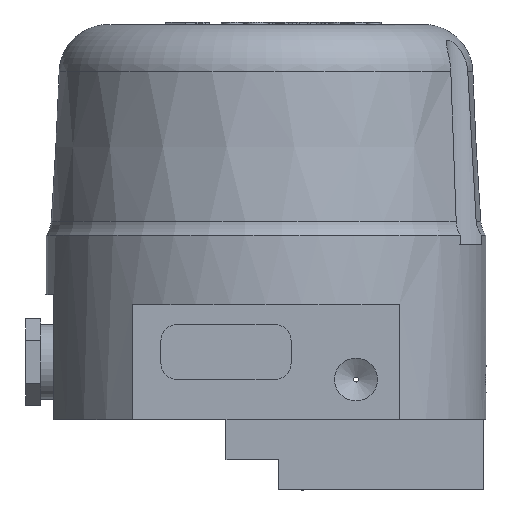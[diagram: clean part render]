
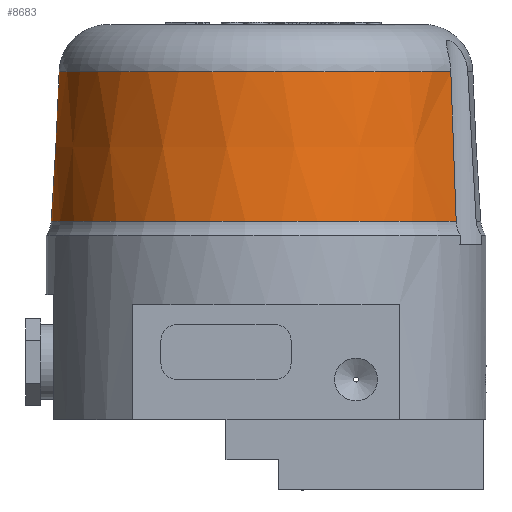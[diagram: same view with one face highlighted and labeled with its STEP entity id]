
A CAD part, left-side view. The second image highlights one B-rep face of the part: STEP entity #8683.
In plain terms, the highlighted conical face has half-angle 3 degrees and reference radius 41.434 mm.
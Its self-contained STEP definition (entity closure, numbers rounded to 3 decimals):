
#65=CONICAL_SURFACE('',#9194,41.434,0.052);
#124=B_SPLINE_CURVE_WITH_KNOTS('',3,(#15531,#15532,#15533,#15534,#15535,
#15536,#15537,#15538,#15539,#15540,#15541,#15542),.UNSPECIFIED.,.F.,.F.,
(4,2,2,2,2,4),(0.,0.25,0.375,0.5,0.75,1.),.UNSPECIFIED.);
#127=B_SPLINE_CURVE_WITH_KNOTS('',3,(#15583,#15584,#15585,#15586,#15587,
#15588,#15589,#15590,#15591,#15592),.UNSPECIFIED.,.F.,.F.,(4,2,2,2,4),(0.,
0.25,0.5,0.75,1.),.UNSPECIFIED.);
#349=CIRCLE('',#9192,41.434);
#351=CIRCLE('',#9195,43.);
#1124=ORIENTED_EDGE('',*,*,#2399,.F.);
#1125=ORIENTED_EDGE('',*,*,#2407,.F.);
#1126=ORIENTED_EDGE('',*,*,#2396,.F.);
#1127=ORIENTED_EDGE('',*,*,#2405,.T.);
#2396=EDGE_CURVE('',#3089,#3090,#124,.T.);
#2399=EDGE_CURVE('',#3091,#3092,#127,.T.);
#2405=EDGE_CURVE('',#3089,#3092,#349,.T.);
#2407=EDGE_CURVE('',#3090,#3091,#351,.T.);
#3089=VERTEX_POINT('',#15530);
#3090=VERTEX_POINT('',#15543);
#3091=VERTEX_POINT('',#15582);
#3092=VERTEX_POINT('',#15593);
#4761=EDGE_LOOP('',(#1124,#1125,#1126,#1127));
#5314=FACE_BOUND('',#4761,.T.);
#8683=ADVANCED_FACE('',(#5314),#65,.T.);
#9192=AXIS2_PLACEMENT_3D('',#15743,#10276,#10277);
#9194=AXIS2_PLACEMENT_3D('',#15746,#10280,#10281);
#9195=AXIS2_PLACEMENT_3D('',#15747,#10282,#10283);
#10276=DIRECTION('',(0.,0.,-1.));
#10277=DIRECTION('',(0.342,0.94,0.));
#10280=DIRECTION('',(0.,0.,-1.));
#10281=DIRECTION('',(0.342,0.94,0.));
#10282=DIRECTION('',(0.,0.,-1.));
#10283=DIRECTION('',(0.342,0.94,0.));
#15530=CARTESIAN_POINT('',(-18.731,-36.959,32.013));
#15531=CARTESIAN_POINT('',(-18.731,-36.959,32.013));
#15532=CARTESIAN_POINT('',(-18.862,-37.038,29.524));
#15533=CARTESIAN_POINT('',(-18.987,-37.121,27.034));
#15534=CARTESIAN_POINT('',(-19.167,-37.249,23.3));
#15535=CARTESIAN_POINT('',(-19.225,-37.292,22.055));
#15536=CARTESIAN_POINT('',(-19.34,-37.38,19.565));
#15537=CARTESIAN_POINT('',(-19.396,-37.424,18.32));
#15538=CARTESIAN_POINT('',(-19.561,-37.559,14.585));
#15539=CARTESIAN_POINT('',(-19.666,-37.652,12.095));
#15540=CARTESIAN_POINT('',(-19.867,-37.841,7.115));
#15541=CARTESIAN_POINT('',(-19.964,-37.937,4.624));
#15542=CARTESIAN_POINT('',(-20.057,-38.036,2.134));
#15543=CARTESIAN_POINT('',(-20.057,-38.036,2.134));
#15582=CARTESIAN_POINT('',(9.085,42.029,2.134));
#15583=CARTESIAN_POINT('',(9.085,42.029,2.134));
#15584=CARTESIAN_POINT('',(9.092,41.894,4.624));
#15585=CARTESIAN_POINT('',(9.104,41.758,7.115));
#15586=CARTESIAN_POINT('',(9.137,41.484,12.095));
#15587=CARTESIAN_POINT('',(9.158,41.345,14.585));
#15588=CARTESIAN_POINT('',(9.211,41.066,19.565));
#15589=CARTESIAN_POINT('',(9.242,40.925,22.055));
#15590=CARTESIAN_POINT('',(9.316,40.641,27.034));
#15591=CARTESIAN_POINT('',(9.359,40.497,29.524));
#15592=CARTESIAN_POINT('',(9.408,40.352,32.013));
#15593=CARTESIAN_POINT('',(9.408,40.352,32.013));
#15743=CARTESIAN_POINT('',(0.,0.,
32.013));
#15746=CARTESIAN_POINT('',(0.,0.,
32.013));
#15747=CARTESIAN_POINT('',(0.,0.,
2.134));
